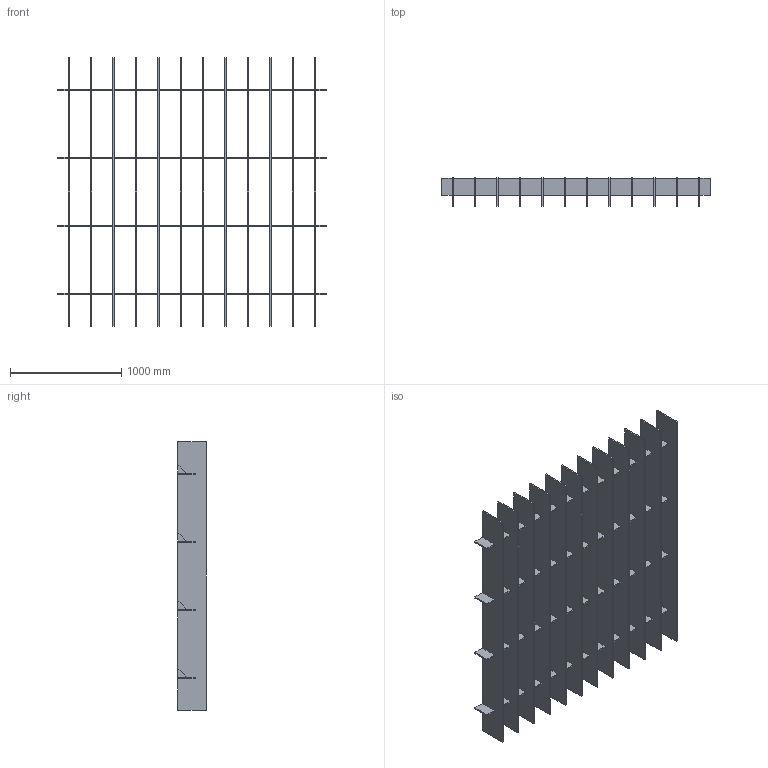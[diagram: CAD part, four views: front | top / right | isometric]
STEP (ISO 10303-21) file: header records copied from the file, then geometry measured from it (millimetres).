
FILE_DESCRIPTION(/* description */ (''),/* implementation_level */ '2;1');
FILE_NAME(/* name */ 'Y:\Design and Engineering\MaterialLogiq\CAD ASSETS\MASTER\BAFFLE\WEB ASSETS\PET BAFFLE_8x8_12FIN_10_FLAT.stp',/* time_stamp */ '2023-11-17T10:10:20-06:00',/* author */ ('Grant Baker'),/* organization */ (''),/* preprocessor_version */ 'ST-DEVELOPER v19',/* originating_system */ 'Autodesk Inventor 2023',/* authorisation */ '');
FILE_SCHEMA (('AUTOMOTIVE_DESIGN { 1 0 10303 214 3 1 1 }'));
Length unit declared in the file: inch
Products named in the file (3): PET BAFFLE_PARAMETRIC_11.02.2023; PET BAFFLE_BEAM; PET BAFFLE_FIN_96in_STANDARD
Assembly tree (16 placements, depth 2):
  PET BAFFLE_PARAMETRIC_11.02.2023
    PET BAFFLE_BEAM  x4
    PET BAFFLE_FIN_96in_STANDARD  x12
Bounding box: 2413 x 254 x 2413 mm (x, y, z)
Volume: 107216233.6 mm3; surface area: 18851083.5 mm2
Topology: 64 solids, 64 shells, 1152 faces, 3072 edges, 2048 vertices
Faces by surface type: plane 1152
Entity records: 5357 total; most frequent: CARTESIAN_POINT 943, ORIENTED_EDGE 912, DIRECTION 822, LINE 456, VECTOR 456, EDGE_CURVE 456, VERTEX_POINT 304, AXIS2_PLACEMENT_3D 183
